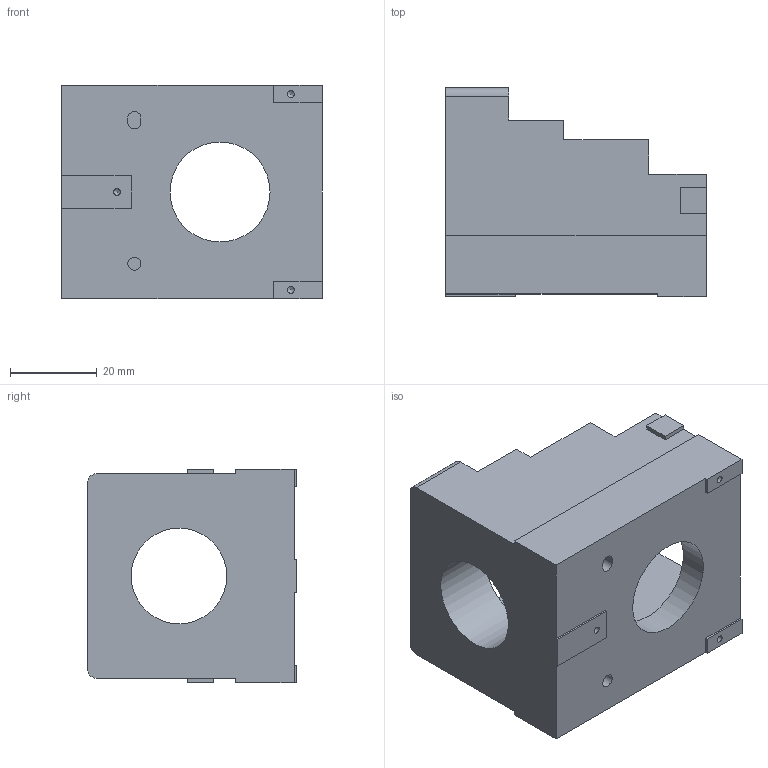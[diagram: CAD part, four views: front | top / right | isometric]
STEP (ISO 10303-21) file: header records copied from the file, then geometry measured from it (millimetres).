
FILE_DESCRIPTION(/* description */ (''),/* implementation_level */ '2;1');
FILE_NAME(/* name */ 'C:\Users\strothej\Documents\ActualDocuments\MicroscopeParts\TwoPhotonSystem\ScanningMechanics\v32\Drawings\Zeiss_Filter_Cube_Mount.stp',/* time_stamp */ '2017-08-02T14:53:59-07:00',/* author */ ('strothej'),/* organization */ (''),/* preprocessor_version */ 'ST-DEVELOPER v16.1',/* originating_system */ 'Autodesk Inventor 2016',/* authorisation */ '');
FILE_SCHEMA (('AUTOMOTIVE_DESIGN { 1 0 10303 214 3 1 1 }'));
Length unit declared in the file: millimetre
Products named in the file (1): Zeiss_Filter_Cube_Mount
Bounding box: 60 x 48 x 49 mm (x, y, z)
Volume: 59408.2 mm3; surface area: 17917.1 mm2
Topology: 1 solids, 1 shells, 99 faces, 276 edges, 181 vertices
Faces by surface type: plane 64, cylinder 26, cone 9
Full cylindrical faces by diameter (mm): 1.567 x7, 2.013 x2, 3 x1, 22 x1, 23 x1
Entity records: 2998 total; most frequent: CARTESIAN_POINT 518, DIRECTION 500, ORIENTED_EDGE 492, EDGE_CURVE 246, LINE 192, VECTOR 192, VERTEX_POINT 172, AXIS2_PLACEMENT_3D 154
